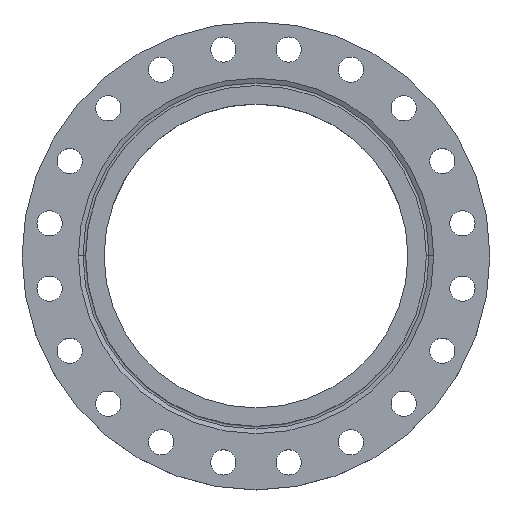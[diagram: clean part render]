
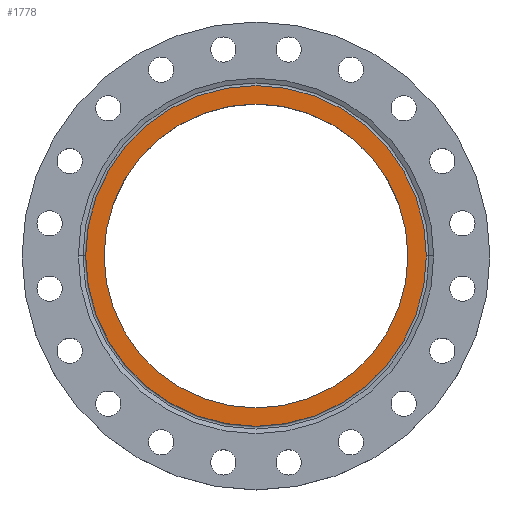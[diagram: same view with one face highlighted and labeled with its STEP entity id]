
A CAD part, top view. The second image highlights one B-rep face of the part: STEP entity #1778.
In plain terms, the highlighted planar face has unit normal (0, 0, 1).
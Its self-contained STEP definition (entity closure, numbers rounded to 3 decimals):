
#16 = DIRECTION ( 'NONE',  ( -1., 0., 0. ) ) ;
#18 = DIRECTION ( 'NONE',  ( 0., 0., -1. ) ) ;
#19 = CARTESIAN_POINT ( 'NONE',  ( 0., 0., 0. ) ) ;
#20 = CIRCLE ( 'NONE', #25, 324. ) ;
#25 = AXIS2_PLACEMENT_3D ( 'NONE', #881, #880, #878 ) ;
#64 = CARTESIAN_POINT ( 'NONE',  ( -324., 0., 0. ) ) ;
#66 = DIRECTION ( 'NONE',  ( -1., 0., 0. ) ) ;
#72 = DIRECTION ( 'NONE',  ( 0., 0., -1. ) ) ;
#85 = CARTESIAN_POINT ( 'NONE',  ( 0., 0., 0. ) ) ;
#112 = AXIS2_PLACEMENT_3D ( 'NONE', #85, #72, #66 ) ;
#114 = CIRCLE ( 'NONE', #112, 324. ) ;
#229 = CARTESIAN_POINT ( 'NONE',  ( 324., 0., 0. ) ) ;
#247 = CARTESIAN_POINT ( 'NONE',  ( 289., 0., 0. ) ) ;
#254 = CARTESIAN_POINT ( 'NONE',  ( 0., 0., 0. ) ) ;
#255 = DIRECTION ( 'NONE',  ( 0., 0., 1. ) ) ;
#257 = DIRECTION ( 'NONE',  ( 1., 0., 0. ) ) ;
#258 = FACE_BOUND ( 'NONE', #1970, .T. ) ;
#259 = FACE_OUTER_BOUND ( 'NONE', #1978, .T. ) ;
#261 = PLANE ( 'NONE',  #1770 ) ;
#571 = EDGE_CURVE ( 'NONE', #1789, #1215, #910, .T. ) ;
#636 = CARTESIAN_POINT ( 'NONE',  ( -289., 0., 0. ) ) ;
#650 = EDGE_CURVE ( 'NONE', #1945, #1809, #20, .T. ) ;
#878 = DIRECTION ( 'NONE',  ( -1., 0., 0. ) ) ;
#880 = DIRECTION ( 'NONE',  ( 0., 0., -1. ) ) ;
#881 = CARTESIAN_POINT ( 'NONE',  ( 0., 0., 0. ) ) ;
#910 = CIRCLE ( 'NONE', #2049, 289. ) ;
#920 = DIRECTION ( 'NONE',  ( -1., 0., 0. ) ) ;
#921 = DIRECTION ( 'NONE',  ( 0., 0., -1. ) ) ;
#922 = CARTESIAN_POINT ( 'NONE',  ( 0., 0., 0. ) ) ;
#1215 = VERTEX_POINT ( 'NONE', #636 ) ;
#1398 = ORIENTED_EDGE ( 'NONE', *, *, #2076, .F. ) ;
#1399 = ORIENTED_EDGE ( 'NONE', *, *, #650, .F. ) ;
#1400 = ORIENTED_EDGE ( 'NONE', *, *, #571, .T. ) ;
#1401 = ORIENTED_EDGE ( 'NONE', *, *, #2009, .T. ) ;
#1589 = CIRCLE ( 'NONE', #1621, 289. ) ;
#1621 = AXIS2_PLACEMENT_3D ( 'NONE', #19, #18, #16 ) ;
#1770 = AXIS2_PLACEMENT_3D ( 'NONE', #254, #255, #257 ) ;
#1778 = ADVANCED_FACE ( 'NONE', ( #258, #259 ), #261, .T. ) ;
#1789 = VERTEX_POINT ( 'NONE', #247 ) ;
#1809 = VERTEX_POINT ( 'NONE', #229 ) ;
#1945 = VERTEX_POINT ( 'NONE', #64 ) ;
#1970 = EDGE_LOOP ( 'NONE', ( #1401, #1400 ) ) ;
#1978 = EDGE_LOOP ( 'NONE', ( #1399, #1398 ) ) ;
#2009 = EDGE_CURVE ( 'NONE', #1215, #1789, #1589, .T. ) ;
#2049 = AXIS2_PLACEMENT_3D ( 'NONE', #922, #921, #920 ) ;
#2076 = EDGE_CURVE ( 'NONE', #1809, #1945, #114, .T. ) ;
